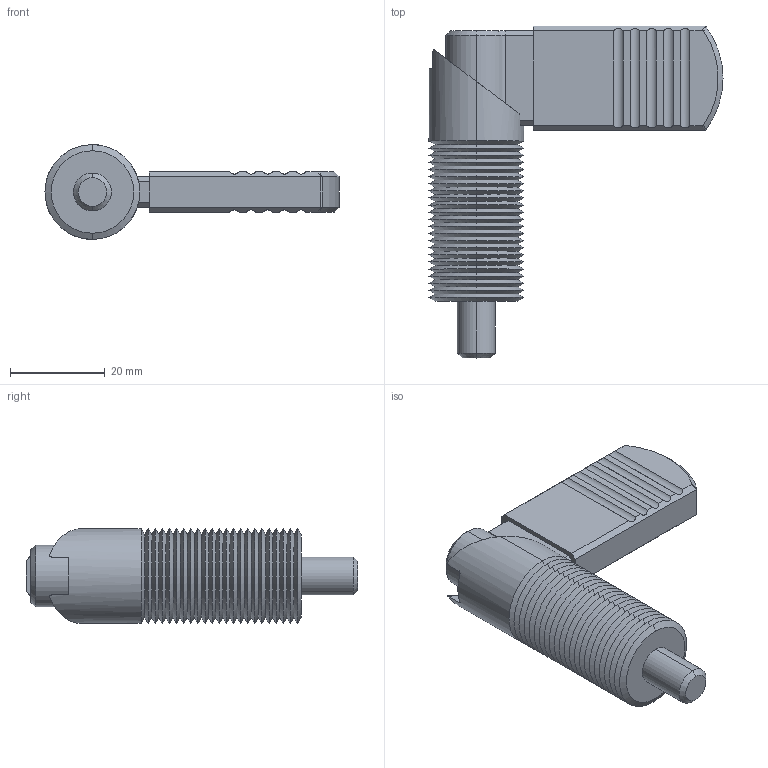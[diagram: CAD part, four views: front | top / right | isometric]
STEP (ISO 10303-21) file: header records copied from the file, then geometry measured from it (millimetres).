
FILE_DESCRIPTION (( 'STEP AP203' ), '1' );
FILE_NAME ('32501.W0368.step', '2016-02-10T17:22:59', ( 'User' ), ( '' ), 'SwSTEP 2.0', 'SolidWorks 2009', '' );
FILE_SCHEMA (( 'CONFIG_CONTROL_DESIGN' ));
Length unit declared in the file: millimetre
Products named in the file (4): 32501.W0368; Part1_32501.W0368; Part2_32501.W0368; Part3_32501.W0368
Assembly tree (3 placements, depth 2):
  32501.W0368
    Part2_32501.W0368
    Part3_32501.W0368
    Part1_32501.W0368
Bounding box: 62 x 70 x 20 mm (x, y, z)
Volume: 16611.2 mm3; surface area: 15231.2 mm2
Topology: 3 solids, 3 shells, 220 faces, 513 edges, 303 vertices
Faces by surface type: cone 107, cylinder 55, plane 54, bspline 4
Entity records: 6702 total; most frequent: CARTESIAN_POINT 1446, ORIENTED_EDGE 1026, DIRECTION 1016, EDGE_CURVE 513, AXIS2_PLACEMENT_3D 371, VERTEX_POINT 303, LINE 274, VECTOR 274
